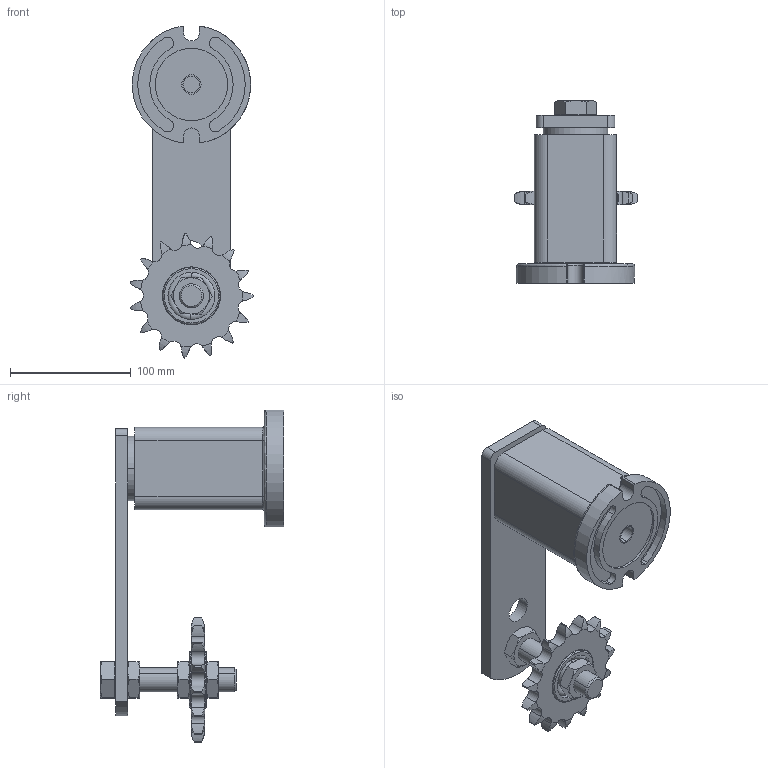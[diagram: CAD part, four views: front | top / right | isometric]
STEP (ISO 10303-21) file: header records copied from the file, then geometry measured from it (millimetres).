
FILE_DESCRIPTION (( 'STEP AP203' ), '1' );
FILE_NAME ('ER 5 - 3-4S cod. 94071951.STEP', '2017-08-28T12:42:08', ( '' ), ( '' ), 'SwSTEP 2.0', 'SolidWorks 2016', '' );
FILE_SCHEMA (( 'CONFIG_CONTROL_DESIGN' ));
Length unit declared in the file: millimetre
Products named in the file (9): ISO - 4035 - M20 - N_ISO - 4035 - M20 - N; R 3-4S M20 cod. 94061921; ISO 4017 - M20 x 100-C_ISO 4017 - M20 x 100-C; SKF - 6204 - 10,SI,NC,10_68_SKF - 6204 - 10,SI,NC,10_68; E5 cod. 94070005; E5-BASE; Leva E5; ER 5 - 3-4S cod. 94071951; Chain wheel ISO - 15Z 12B-1 --15SA48.0N_Chain wheel ISO - 15Z 12B-1 --15SA48.0N
Assembly tree (10 placements, depth 3):
  ER 5 - 3-4S cod. 94071951
    E5 cod. 94070005
      E5-BASE
      Leva E5
    R 3-4S M20 cod. 94061921
      Chain wheel ISO - 15Z 12B-1 --15SA48.0N_Chain wheel ISO - 15Z 12B-1 --15SA48.0N
      SKF - 6204 - 10,SI,NC,10_68_SKF - 6204 - 10,SI,NC,10_68
      ISO 4017 - M20 x 100-C_ISO 4017 - M20 x 100-C
      ISO - 4035 - M20 - N_ISO - 4035 - M20 - N  x2
    ISO - 4035 - M20 - N_ISO - 4035 - M20 - N
Bounding box: 102.42 x 151.5 x 274.82 mm (x, y, z)
Volume: 437714.9 mm3; surface area: 170801.7 mm2
Topology: 7 solids, 9 shells, 341 faces, 836 edges, 520 vertices
Faces by surface type: cylinder 154, plane 72, cone 56, torus 44, bspline 15
Entity records: 11480 total; most frequent: CARTESIAN_POINT 3783, ORIENTED_EDGE 1428, DIRECTION 1407, EDGE_CURVE 716, AXIS2_PLACEMENT_3D 592, VERTEX_POINT 452, EDGE_LOOP 306, CIRCLE 306
